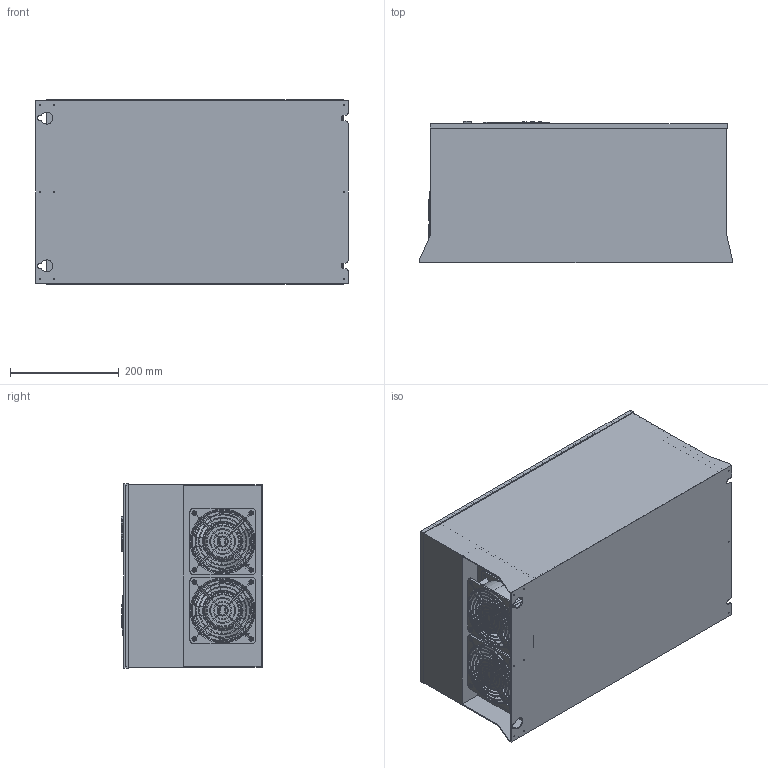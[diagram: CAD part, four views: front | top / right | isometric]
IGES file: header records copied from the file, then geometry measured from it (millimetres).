
Global section: file name: Filename.iges; native system: Open CASCADE 7.5; preprocessor: Open CASCADE IGES processor 7.5; date: 20220510.083623; units: millimetre
Bounding box: 575 x 261.1 x 339 mm (x, y, z)
Surface area: 1877448.3 mm2 (no closed solid volume)
Topology: 0 solids, 0 shells, 1808 faces, 9476 edges, 9430 vertices
Faces by surface type: plane 1166, revolution 546, bspline 96
